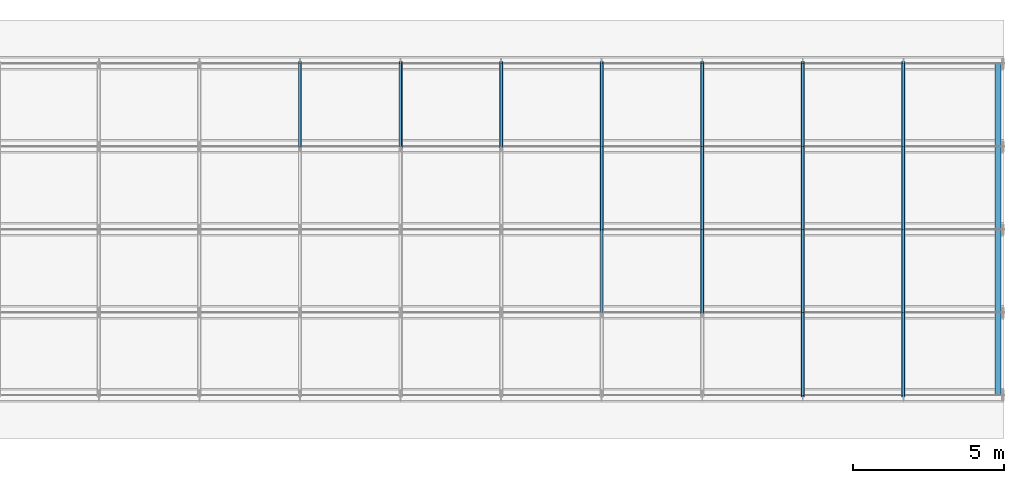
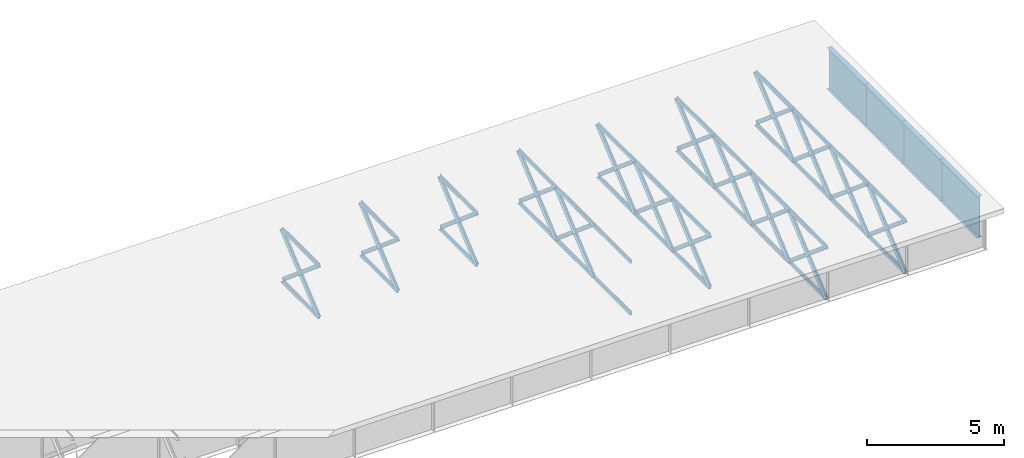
# One storey, part 2 of 19: 70 members.
"""IFC4 building model written with IfcOpenShell, lengths in metres."""

import ifcopenshell
import ifcopenshell.guid

model = None  # the IFC model being written
_history = None  # IfcOwnerHistory: only IFC2X3 demands one
_inside = {}  # id of a spatial element -> (the spatial element, [elements in it])
_under = {}  # id of a project, library or spatial element -> (it, [spatial elements below it])
_declared = {}  # id of a project -> (the project, [libraries it declares])
_typed = {}  # id of a type object -> (the type object, [elements of that type])
_made_of = {}  # id of a material, layer set ... -> (it, [elements and type objects made of it])


def new_model(schema):
    """Start an empty IFC model of exactly this schema.

    Asked for "IFC4X3", IfcOpenShell would pick the latest addendum, in which some entities
    have other attributes; the version numbers below select the first issue.
    IFC2X3 requires an IfcOwnerHistory on every rooted entity: one is made here for all.
    """
    global model, _history
    if schema == "IFC4X3":
        model = ifcopenshell.file(schema_version=(4, 3, 0, 0))
    else:
        model = ifcopenshell.file(schema=schema)
    _inside.clear()
    _under.clear()
    _declared.clear()
    _typed.clear()
    _made_of.clear()
    _history = None
    if model.schema == "IFC2X3":
        org = make("IfcOrganization", Name="unknown")
        user = make(
            "IfcPersonAndOrganization",
            ThePerson=make("IfcPerson", FamilyName="unknown"),
            TheOrganization=org,
        )
        app = make(
            "IfcApplication",
            ApplicationDeveloper=org,
            Version="unknown",
            ApplicationFullName="unknown",
            ApplicationIdentifier="unknown",
        )
        _history = make(
            "IfcOwnerHistory",
            OwningUser=user,
            OwningApplication=app,
            ChangeAction="ADDED",
            CreationDate=0,
        )
    return model


def make(cls, **values):
    """One entity of the class cls with the attributes given. An attribute that is None is left unset."""
    return model.create_entity(
        cls, **{name: value for name, value in values.items() if value is not None}
    )


def rooted(cls, **values):
    """An entity with a GlobalId (a new one), such as an element, a storey or a relation."""
    return make(cls, GlobalId=ifcopenshell.guid.new(), OwnerHistory=_history, **values)


def si_unit(unit_type, name, prefix=None):
    """IfcSIUnit, for example si_unit("LENGTHUNIT", "METRE", prefix="MILLI")."""
    return make("IfcSIUnit", UnitType=unit_type, Prefix=prefix, Name=name)


def assignment(units):
    """IfcUnitAssignment: the units of a project."""
    return None if units is None else make("IfcUnitAssignment", Units=units)


def point(xyz):
    """IfcCartesianPoint."""
    return None if xyz is None else make("IfcCartesianPoint", Coordinates=xyz)


def direction(xyz):
    """IfcDirection."""
    return None if xyz is None else make("IfcDirection", DirectionRatios=xyz)


def frame(location, z_axis=None, x_axis=None):
    """IfcAxis2Placement3D, a coordinate frame: its origin and axes. An axis left out is left unset."""
    return make(
        "IfcAxis2Placement3D",
        Location=point(location),
        Axis=direction(z_axis),
        RefDirection=direction(x_axis),
    )


def frame_2d(location, x_axis=None):
    """IfcAxis2Placement2D, a coordinate frame in the plane: its origin and x axis."""
    return make(
        "IfcAxis2Placement2D", Location=point(location), RefDirection=direction(x_axis)
    )


def origin():
    """The frame at (0, 0, 0) with its axes left unset."""
    return frame((0.0, 0.0, 0.0))


def origin_with_axes():
    """The frame at (0, 0, 0) with the z axis (0, 0, 1) and the x axis (1, 0, 0) written out."""
    return frame((0.0, 0.0, 0.0), z_axis=(0.0, 0.0, 1.0), x_axis=(1.0, 0.0, 0.0))


def origin_2d_with_axis():
    """The frame at (0, 0) in the plane with the x axis (1, 0) written out."""
    return frame_2d((0.0, 0.0), x_axis=(1.0, 0.0))


def place(relative_to, where):
    """IfcLocalPlacement: puts the frame where relative to a parent placement (None: the world)."""
    return make(
        "IfcLocalPlacement", PlacementRelTo=relative_to, RelativePlacement=where
    )


def context(
    kind, dimensions, precision=None, world=None, true_north=None, identifier=None
):
    """IfcGeometricRepresentationContext, for example the 3D "Model" context."""
    return make(
        "IfcGeometricRepresentationContext",
        ContextIdentifier=identifier,
        ContextType=kind,
        CoordinateSpaceDimension=dimensions,
        Precision=precision,
        WorldCoordinateSystem=world,
        TrueNorth=true_north,
    )


def subcontext(parent, identifier, kind, view, scale=None):
    """IfcGeometricRepresentationSubContext, for example "Body" below "Model"."""
    return make(
        "IfcGeometricRepresentationSubContext",
        ContextIdentifier=identifier,
        ContextType=kind,
        ParentContext=parent,
        TargetScale=scale,
        TargetView=view,
    )


def project(units=None, contexts=None):
    """IfcProject with its units and contexts."""
    return rooted(
        "IfcProject",
        Name="project",
        RepresentationContexts=contexts,
        UnitsInContext=assignment(units),
    )


def spatial(cls, under=None, at=None, **own):
    """A site, building, storey or space (cls), placed at a placement, below another one or the project."""
    s = rooted(cls, ObjectPlacement=at, **own)
    if under is not None:
        _under.setdefault(under.id(), (under, []))[1].append(s)
    return s


def profile(cls, at=None, kind="AREA", **sizes):
    """A parametric profile (cls). Its sizes go by their IFC names, for example OverallWidth=200.0."""
    return make(cls, ProfileType=kind, Position=at, **sizes)


def i_section(**sizes):
    """IfcIShapeProfileDef."""
    return profile("IfcIShapeProfileDef", **sizes)


def l_section(**sizes):
    """IfcLShapeProfileDef."""
    return profile("IfcLShapeProfileDef", **sizes)


def extrude(swept, where, along, depth):
    """IfcExtrudedAreaSolid: the profile swept, set in the frame where, extruded along a direction by depth."""
    return make(
        "IfcExtrudedAreaSolid",
        SweptArea=swept,
        Position=where,
        ExtrudedDirection=direction(along),
        Depth=depth,
    )


def shape(context_of_items, identifier, shape_type, items):
    """IfcShapeRepresentation: the items that make up one representation, for example the "Body"."""
    return make(
        "IfcShapeRepresentation",
        ContextOfItems=context_of_items,
        RepresentationIdentifier=identifier,
        RepresentationType=shape_type,
        Items=items,
    )


def made_of(thing, what):
    """Note that an element or type object is made of a material, layer set ...; save() writes the relation."""
    if what is not None:
        _made_of.setdefault(what.id(), (what, []))[1].append(thing)
    return thing


def element(
    cls,
    number,
    at=None,
    inside=None,
    cuts=None,
    type_object=None,
    material=None,
    context=None,
    identifier="Body",
    shape_type=None,
    held_by="IfcProductDefinitionShape",
    body=None,
    shapes=None,
    **own,
):
    """One element of the class cls, such as IfcWall. Its Tag is "e" and its number.

    at: its placement. inside: the storey or other place that contains it. cuts: it is an
    opening in that element (IfcRelVoidsElement). A single representation is given by context,
    identifier, shape_type and body (its items); several are given by shapes. held_by: the class
    of the entity that holds the representations. save() writes the other relations.
    """
    e = rooted(cls, Tag="e%d" % number, ObjectPlacement=at, **own)
    if body is not None:
        shapes = [shape(context, identifier, shape_type, body)]
    if shapes is not None:
        e.Representation = make(held_by, Representations=shapes)
    if inside is not None:
        _inside.setdefault(inside.id(), (inside, []))[1].append(e)
    if cuts is not None:
        rooted(
            "IfcRelVoidsElement", RelatingBuildingElement=cuts, RelatedOpeningElement=e
        )
    if type_object is not None:
        _typed.setdefault(type_object.id(), (type_object, []))[1].append(e)
    return made_of(e, material)


def aggregate(whole, parts):
    """IfcRelAggregates: a whole, such as a stair, and the parts it consists of."""
    return rooted("IfcRelAggregates", RelatingObject=whole, RelatedObjects=parts)


def save(model, path):
    """Write the relations noted so far, then the file.

    IfcRelAggregates (storeys below a building ...), IfcRelContainedInSpatialStructure (elements
    in a storey), IfcRelDefinesByType, IfcRelAssociatesMaterial and IfcRelDeclares: one each for
    every whole, place, type object, material and project.
    """
    for whole, parts in _under.values():
        aggregate(whole, parts)
    for where, things in _inside.values():
        rooted(
            "IfcRelContainedInSpatialStructure",
            RelatedElements=things,
            RelatingStructure=where,
        )
    for kind, things in _typed.values():
        rooted("IfcRelDefinesByType", RelatedObjects=things, RelatingType=kind)
    for what, things in _made_of.values():
        rooted("IfcRelAssociatesMaterial", RelatedObjects=things, RelatingMaterial=what)
    for by, libraries in _declared.values():
        rooted("IfcRelDeclares", RelatingContext=by, RelatedDefinitions=libraries)
    model.write(path)


model = new_model("IFC4")

# Units and contexts
model_context = context("Model", 3, precision=1e-05, world=origin())
body_context = subcontext(model_context, "Body", "Model", "MODEL_VIEW")
ifc_project = project(units=[si_unit("LENGTHUNIT", "METRE"), si_unit("AREAUNIT", "SQUARE_METRE"), si_unit("VOLUMEUNIT", "CUBIC_METRE"), si_unit("PLANEANGLEUNIT", "RADIAN")], contexts=[model_context])

# Site, building, storey
site_placement = place(None, origin_with_axes())
site = spatial("IfcSite", under=ifc_project, at=site_placement, Name="Default Site")
building_placement = place(site_placement, origin_with_axes())
building = spatial("IfcBuilding", under=site, at=building_placement, Name="Bridge Structure")
storey_placement = place(building_placement, origin_with_axes())
storey = spatial("IfcBuildingStorey", under=building, at=storey_placement, Name="Superstructure")

# Members
for number, where, z_axis, x_axis, name in (
    (1, (16.666666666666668, 2.75, 1.157), (0.0, 0.765156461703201, -0.6438443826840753), (-1.0, 0.0, 0.0), "Diagonal Brace"),
    (2, (16.666666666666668, 2.75, -1.157), (0.0, 0.765156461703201, 0.6438443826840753), (-1.0, 0.0, 0.0), "Diagonal Brace"),
):
    element("IfcMember", number, at=place(storey_placement, frame(where, z_axis=z_axis, x_axis=x_axis)), inside=storey, Name=name, context=body_context, shape_type="SweptSolid", body=[
        extrude(l_section(Depth=0.17300000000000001, Width=0.115, Thickness=0.008, at=origin_2d_with_axis()), origin_with_axes(), (0.0, 0.0, 1.0), 3.594036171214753),
    ])
for number, where, z_axis, x_axis, name in (
    (3, (16.666666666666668, 2.75, -1.157), (0.0, 1.0, 0.0), (-1.0, 0.0, 0.0), "Bottom Chord"),
    (4, (16.666666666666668, 2.75, 1.157), (0.0, 1.0, 0.0), (-1.0, 0.0, 0.0), "Top Chord"),
):
    element("IfcMember", number, at=place(storey_placement, frame(where, z_axis=z_axis, x_axis=x_axis)), inside=storey, Name=name, context=body_context, shape_type="SweptSolid", body=[
        extrude(l_section(Depth=0.15, Width=0.092, Thickness=0.008, at=origin_2d_with_axis()), origin_with_axes(), (0.0, 0.0, 1.0), 2.75),
    ])
for number, where, z_axis, x_axis, name in (
    (5, (20.0, 2.75, 1.157), (0.0, 0.765156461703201, -0.6438443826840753), (-1.0, 0.0, 0.0), "Diagonal Brace"),
    (6, (20.0, 2.75, -1.157), (0.0, 0.765156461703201, 0.6438443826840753), (-1.0, 0.0, 0.0), "Diagonal Brace"),
):
    element("IfcMember", number, at=place(storey_placement, frame(where, z_axis=z_axis, x_axis=x_axis)), inside=storey, Name=name, context=body_context, shape_type="SweptSolid", body=[
        extrude(l_section(Depth=0.17300000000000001, Width=0.115, Thickness=0.008, at=origin_2d_with_axis()), origin_with_axes(), (0.0, 0.0, 1.0), 3.594036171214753),
    ])
for number, where, z_axis, x_axis, name in (
    (7, (20.0, 2.75, -1.157), (0.0, 1.0, 0.0), (-1.0, 0.0, 0.0), "Bottom Chord"),
    (8, (20.0, 2.75, 1.157), (0.0, 1.0, 0.0), (-1.0, 0.0, 0.0), "Top Chord"),
):
    element("IfcMember", number, at=place(storey_placement, frame(where, z_axis=z_axis, x_axis=x_axis)), inside=storey, Name=name, context=body_context, shape_type="SweptSolid", body=[
        extrude(l_section(Depth=0.15, Width=0.092, Thickness=0.008, at=origin_2d_with_axis()), origin_with_axes(), (0.0, 0.0, 1.0), 2.75),
    ])
for number, where, z_axis, x_axis, name in (
    (9, (23.333333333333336, 2.75, 1.157), (0.0, 0.765156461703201, -0.6438443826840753), (-1.0, 0.0, 0.0), "Diagonal Brace"),
    (10, (23.333333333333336, 2.75, -1.157), (0.0, 0.765156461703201, 0.6438443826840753), (-1.0, 0.0, 0.0), "Diagonal Brace"),
):
    element("IfcMember", number, at=place(storey_placement, frame(where, z_axis=z_axis, x_axis=x_axis)), inside=storey, Name=name, context=body_context, shape_type="SweptSolid", body=[
        extrude(l_section(Depth=0.17300000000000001, Width=0.115, Thickness=0.008, at=origin_2d_with_axis()), origin_with_axes(), (0.0, 0.0, 1.0), 3.594036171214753),
    ])
for number, where, z_axis, x_axis, name in (
    (11, (23.333333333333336, 2.75, -1.157), (0.0, 1.0, 0.0), (-1.0, 0.0, 0.0), "Bottom Chord"),
    (12, (23.333333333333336, 2.75, 1.157), (0.0, 1.0, 0.0), (-1.0, 0.0, 0.0), "Top Chord"),
    (13, (26.666666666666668, -2.75, -1.157), (0.0, 1.0, 0.0), (-1.0, 0.0, 0.0), "Bottom Chord"),
    (14, (26.666666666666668, -2.75, 1.157), (0.0, 1.0, 0.0), (-1.0, 0.0, 0.0), "Top Chord"),
):
    element("IfcMember", number, at=place(storey_placement, frame(where, z_axis=z_axis, x_axis=x_axis)), inside=storey, Name=name, context=body_context, shape_type="SweptSolid", body=[
        extrude(l_section(Depth=0.15, Width=0.092, Thickness=0.008, at=origin_2d_with_axis()), origin_with_axes(), (0.0, 0.0, 1.0), 2.75),
    ])
for number, where, z_axis, x_axis, name in (
    (15, (26.666666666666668, 0.0, 1.157), (0.0, 0.765156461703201, -0.6438443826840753), (-1.0, 0.0, 0.0), "Diagonal Brace"),
    (16, (26.666666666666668, 0.0, -1.157), (0.0, 0.765156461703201, 0.6438443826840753), (-1.0, 0.0, 0.0), "Diagonal Brace"),
):
    element("IfcMember", number, at=place(storey_placement, frame(where, z_axis=z_axis, x_axis=x_axis)), inside=storey, Name=name, context=body_context, shape_type="SweptSolid", body=[
        extrude(l_section(Depth=0.17300000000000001, Width=0.115, Thickness=0.008, at=origin_2d_with_axis()), origin_with_axes(), (0.0, 0.0, 1.0), 3.594036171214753),
    ])
for number, where, z_axis, x_axis, name in (
    (17, (26.666666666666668, 0.0, -1.157), (0.0, 1.0, 0.0), (-1.0, 0.0, 0.0), "Bottom Chord"),
    (18, (26.666666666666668, 0.0, 1.157), (0.0, 1.0, 0.0), (-1.0, 0.0, 0.0), "Top Chord"),
):
    element("IfcMember", number, at=place(storey_placement, frame(where, z_axis=z_axis, x_axis=x_axis)), inside=storey, Name=name, context=body_context, shape_type="SweptSolid", body=[
        extrude(l_section(Depth=0.15, Width=0.092, Thickness=0.008, at=origin_2d_with_axis()), origin_with_axes(), (0.0, 0.0, 1.0), 2.75),
    ])
for number, where, z_axis, x_axis, name in (
    (19, (26.666666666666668, 2.75, 1.157), (0.0, 0.765156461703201, -0.6438443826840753), (-1.0, 0.0, 0.0), "Diagonal Brace"),
    (20, (26.666666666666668, 2.75, -1.157), (0.0, 0.765156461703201, 0.6438443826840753), (-1.0, 0.0, 0.0), "Diagonal Brace"),
):
    element("IfcMember", number, at=place(storey_placement, frame(where, z_axis=z_axis, x_axis=x_axis)), inside=storey, Name=name, context=body_context, shape_type="SweptSolid", body=[
        extrude(l_section(Depth=0.17300000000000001, Width=0.115, Thickness=0.008, at=origin_2d_with_axis()), origin_with_axes(), (0.0, 0.0, 1.0), 3.594036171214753),
    ])
for number, where, z_axis, x_axis, name in (
    (21, (26.666666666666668, 2.75, -1.157), (0.0, 1.0, 0.0), (-1.0, 0.0, 0.0), "Bottom Chord"),
    (22, (26.666666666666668, 2.75, 1.157), (0.0, 1.0, 0.0), (-1.0, 0.0, 0.0), "Top Chord"),
):
    element("IfcMember", number, at=place(storey_placement, frame(where, z_axis=z_axis, x_axis=x_axis)), inside=storey, Name=name, context=body_context, shape_type="SweptSolid", body=[
        extrude(l_section(Depth=0.15, Width=0.092, Thickness=0.008, at=origin_2d_with_axis()), origin_with_axes(), (0.0, 0.0, 1.0), 2.75),
    ])
for number, where, z_axis, x_axis, name in (
    (23, (30.0, -2.75, 1.157), (0.0, 0.765156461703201, -0.6438443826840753), (-1.0, 0.0, 0.0), "Diagonal Brace"),
    (24, (30.0, -2.75, -1.157), (0.0, 0.765156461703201, 0.6438443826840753), (-1.0, 0.0, 0.0), "Diagonal Brace"),
):
    element("IfcMember", number, at=place(storey_placement, frame(where, z_axis=z_axis, x_axis=x_axis)), inside=storey, Name=name, context=body_context, shape_type="SweptSolid", body=[
        extrude(l_section(Depth=0.17300000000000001, Width=0.115, Thickness=0.008, at=origin_2d_with_axis()), origin_with_axes(), (0.0, 0.0, 1.0), 3.594036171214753),
    ])
for number, where, z_axis, x_axis, name in (
    (25, (30.0, -2.75, -1.157), (0.0, 1.0, 0.0), (-1.0, 0.0, 0.0), "Bottom Chord"),
    (26, (30.0, -2.75, 1.157), (0.0, 1.0, 0.0), (-1.0, 0.0, 0.0), "Top Chord"),
):
    element("IfcMember", number, at=place(storey_placement, frame(where, z_axis=z_axis, x_axis=x_axis)), inside=storey, Name=name, context=body_context, shape_type="SweptSolid", body=[
        extrude(l_section(Depth=0.15, Width=0.092, Thickness=0.008, at=origin_2d_with_axis()), origin_with_axes(), (0.0, 0.0, 1.0), 2.75),
    ])
for number, where, z_axis, x_axis, name in (
    (27, (30.0, 0.0, 1.157), (0.0, 0.765156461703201, -0.6438443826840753), (-1.0, 0.0, 0.0), "Diagonal Brace"),
    (28, (30.0, 0.0, -1.157), (0.0, 0.765156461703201, 0.6438443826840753), (-1.0, 0.0, 0.0), "Diagonal Brace"),
):
    element("IfcMember", number, at=place(storey_placement, frame(where, z_axis=z_axis, x_axis=x_axis)), inside=storey, Name=name, context=body_context, shape_type="SweptSolid", body=[
        extrude(l_section(Depth=0.17300000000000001, Width=0.115, Thickness=0.008, at=origin_2d_with_axis()), origin_with_axes(), (0.0, 0.0, 1.0), 3.594036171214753),
    ])
for number, where, z_axis, x_axis, name in (
    (29, (30.0, 0.0, -1.157), (0.0, 1.0, 0.0), (-1.0, 0.0, 0.0), "Bottom Chord"),
    (30, (30.0, 0.0, 1.157), (0.0, 1.0, 0.0), (-1.0, 0.0, 0.0), "Top Chord"),
):
    element("IfcMember", number, at=place(storey_placement, frame(where, z_axis=z_axis, x_axis=x_axis)), inside=storey, Name=name, context=body_context, shape_type="SweptSolid", body=[
        extrude(l_section(Depth=0.15, Width=0.092, Thickness=0.008, at=origin_2d_with_axis()), origin_with_axes(), (0.0, 0.0, 1.0), 2.75),
    ])
for number, where, z_axis, x_axis, name in (
    (31, (30.0, 2.75, 1.157), (0.0, 0.765156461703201, -0.6438443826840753), (-1.0, 0.0, 0.0), "Diagonal Brace"),
    (32, (30.0, 2.75, -1.157), (0.0, 0.765156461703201, 0.6438443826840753), (-1.0, 0.0, 0.0), "Diagonal Brace"),
):
    element("IfcMember", number, at=place(storey_placement, frame(where, z_axis=z_axis, x_axis=x_axis)), inside=storey, Name=name, context=body_context, shape_type="SweptSolid", body=[
        extrude(l_section(Depth=0.17300000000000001, Width=0.115, Thickness=0.008, at=origin_2d_with_axis()), origin_with_axes(), (0.0, 0.0, 1.0), 3.594036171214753),
    ])
for number, where, z_axis, x_axis, name in (
    (33, (30.0, 2.75, -1.157), (0.0, 1.0, 0.0), (-1.0, 0.0, 0.0), "Bottom Chord"),
    (34, (30.0, 2.75, 1.157), (0.0, 1.0, 0.0), (-1.0, 0.0, 0.0), "Top Chord"),
):
    element("IfcMember", number, at=place(storey_placement, frame(where, z_axis=z_axis, x_axis=x_axis)), inside=storey, Name=name, context=body_context, shape_type="SweptSolid", body=[
        extrude(l_section(Depth=0.15, Width=0.092, Thickness=0.008, at=origin_2d_with_axis()), origin_with_axes(), (0.0, 0.0, 1.0), 2.75),
    ])
for number, where, z_axis, x_axis, name in (
    (35, (33.333333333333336, -5.5, 1.157), (0.0, 0.765156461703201, -0.6438443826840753), (-1.0, 0.0, 0.0), "Diagonal Brace"),
    (36, (33.333333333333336, -5.5, -1.157), (0.0, 0.765156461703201, 0.6438443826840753), (-1.0, 0.0, 0.0), "Diagonal Brace"),
):
    element("IfcMember", number, at=place(storey_placement, frame(where, z_axis=z_axis, x_axis=x_axis)), inside=storey, Name=name, context=body_context, shape_type="SweptSolid", body=[
        extrude(l_section(Depth=0.17300000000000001, Width=0.115, Thickness=0.008, at=origin_2d_with_axis()), origin_with_axes(), (0.0, 0.0, 1.0), 3.594036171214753),
    ])
for number, where, z_axis, x_axis, name in (
    (37, (33.333333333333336, -5.5, -1.157), (0.0, 1.0, 0.0), (-1.0, 0.0, 0.0), "Bottom Chord"),
    (38, (33.333333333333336, -5.5, 1.157), (0.0, 1.0, 0.0), (-1.0, 0.0, 0.0), "Top Chord"),
):
    element("IfcMember", number, at=place(storey_placement, frame(where, z_axis=z_axis, x_axis=x_axis)), inside=storey, Name=name, context=body_context, shape_type="SweptSolid", body=[
        extrude(l_section(Depth=0.15, Width=0.092, Thickness=0.008, at=origin_2d_with_axis()), origin_with_axes(), (0.0, 0.0, 1.0), 2.75),
    ])
for number, where, z_axis, x_axis, name in (
    (39, (33.333333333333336, -2.75, 1.157), (0.0, 0.765156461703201, -0.6438443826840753), (-1.0, 0.0, 0.0), "Diagonal Brace"),
    (40, (33.333333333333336, -2.75, -1.157), (0.0, 0.765156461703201, 0.6438443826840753), (-1.0, 0.0, 0.0), "Diagonal Brace"),
):
    element("IfcMember", number, at=place(storey_placement, frame(where, z_axis=z_axis, x_axis=x_axis)), inside=storey, Name=name, context=body_context, shape_type="SweptSolid", body=[
        extrude(l_section(Depth=0.17300000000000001, Width=0.115, Thickness=0.008, at=origin_2d_with_axis()), origin_with_axes(), (0.0, 0.0, 1.0), 3.594036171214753),
    ])
for number, where, z_axis, x_axis, name in (
    (41, (33.333333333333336, -2.75, -1.157), (0.0, 1.0, 0.0), (-1.0, 0.0, 0.0), "Bottom Chord"),
    (42, (33.333333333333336, -2.75, 1.157), (0.0, 1.0, 0.0), (-1.0, 0.0, 0.0), "Top Chord"),
):
    element("IfcMember", number, at=place(storey_placement, frame(where, z_axis=z_axis, x_axis=x_axis)), inside=storey, Name=name, context=body_context, shape_type="SweptSolid", body=[
        extrude(l_section(Depth=0.15, Width=0.092, Thickness=0.008, at=origin_2d_with_axis()), origin_with_axes(), (0.0, 0.0, 1.0), 2.75),
    ])
for number, where, z_axis, x_axis, name in (
    (43, (33.333333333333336, 0.0, 1.157), (0.0, 0.765156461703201, -0.6438443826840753), (-1.0, 0.0, 0.0), "Diagonal Brace"),
    (44, (33.333333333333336, 0.0, -1.157), (0.0, 0.765156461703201, 0.6438443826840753), (-1.0, 0.0, 0.0), "Diagonal Brace"),
):
    element("IfcMember", number, at=place(storey_placement, frame(where, z_axis=z_axis, x_axis=x_axis)), inside=storey, Name=name, context=body_context, shape_type="SweptSolid", body=[
        extrude(l_section(Depth=0.17300000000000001, Width=0.115, Thickness=0.008, at=origin_2d_with_axis()), origin_with_axes(), (0.0, 0.0, 1.0), 3.594036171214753),
    ])
for number, where, z_axis, x_axis, name in (
    (45, (33.333333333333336, 0.0, -1.157), (0.0, 1.0, 0.0), (-1.0, 0.0, 0.0), "Bottom Chord"),
    (46, (33.333333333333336, 0.0, 1.157), (0.0, 1.0, 0.0), (-1.0, 0.0, 0.0), "Top Chord"),
):
    element("IfcMember", number, at=place(storey_placement, frame(where, z_axis=z_axis, x_axis=x_axis)), inside=storey, Name=name, context=body_context, shape_type="SweptSolid", body=[
        extrude(l_section(Depth=0.15, Width=0.092, Thickness=0.008, at=origin_2d_with_axis()), origin_with_axes(), (0.0, 0.0, 1.0), 2.75),
    ])
for number, where, z_axis, x_axis, name in (
    (47, (33.333333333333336, 2.75, 1.157), (0.0, 0.765156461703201, -0.6438443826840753), (-1.0, 0.0, 0.0), "Diagonal Brace"),
    (48, (33.333333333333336, 2.75, -1.157), (0.0, 0.765156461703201, 0.6438443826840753), (-1.0, 0.0, 0.0), "Diagonal Brace"),
):
    element("IfcMember", number, at=place(storey_placement, frame(where, z_axis=z_axis, x_axis=x_axis)), inside=storey, Name=name, context=body_context, shape_type="SweptSolid", body=[
        extrude(l_section(Depth=0.17300000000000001, Width=0.115, Thickness=0.008, at=origin_2d_with_axis()), origin_with_axes(), (0.0, 0.0, 1.0), 3.594036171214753),
    ])
for number, where, z_axis, x_axis, name in (
    (49, (33.333333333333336, 2.75, -1.157), (0.0, 1.0, 0.0), (-1.0, 0.0, 0.0), "Bottom Chord"),
    (50, (33.333333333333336, 2.75, 1.157), (0.0, 1.0, 0.0), (-1.0, 0.0, 0.0), "Top Chord"),
):
    element("IfcMember", number, at=place(storey_placement, frame(where, z_axis=z_axis, x_axis=x_axis)), inside=storey, Name=name, context=body_context, shape_type="SweptSolid", body=[
        extrude(l_section(Depth=0.15, Width=0.092, Thickness=0.008, at=origin_2d_with_axis()), origin_with_axes(), (0.0, 0.0, 1.0), 2.75),
    ])
for number, where, z_axis, x_axis, name in (
    (51, (36.66666666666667, -5.5, 1.157), (0.0, 0.765156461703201, -0.6438443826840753), (-1.0, 0.0, 0.0), "Diagonal Brace"),
    (52, (36.66666666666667, -5.5, -1.157), (0.0, 0.765156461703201, 0.6438443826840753), (-1.0, 0.0, 0.0), "Diagonal Brace"),
):
    element("IfcMember", number, at=place(storey_placement, frame(where, z_axis=z_axis, x_axis=x_axis)), inside=storey, Name=name, context=body_context, shape_type="SweptSolid", body=[
        extrude(l_section(Depth=0.17300000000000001, Width=0.115, Thickness=0.008, at=origin_2d_with_axis()), origin_with_axes(), (0.0, 0.0, 1.0), 3.594036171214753),
    ])
for number, where, z_axis, x_axis, name in (
    (53, (36.66666666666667, -5.5, -1.157), (0.0, 1.0, 0.0), (-1.0, 0.0, 0.0), "Bottom Chord"),
    (54, (36.66666666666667, -5.5, 1.157), (0.0, 1.0, 0.0), (-1.0, 0.0, 0.0), "Top Chord"),
):
    element("IfcMember", number, at=place(storey_placement, frame(where, z_axis=z_axis, x_axis=x_axis)), inside=storey, Name=name, context=body_context, shape_type="SweptSolid", body=[
        extrude(l_section(Depth=0.15, Width=0.092, Thickness=0.008, at=origin_2d_with_axis()), origin_with_axes(), (0.0, 0.0, 1.0), 2.75),
    ])
for number, where, z_axis, x_axis, name in (
    (55, (36.66666666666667, -2.75, 1.157), (0.0, 0.765156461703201, -0.6438443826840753), (-1.0, 0.0, 0.0), "Diagonal Brace"),
    (56, (36.66666666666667, -2.75, -1.157), (0.0, 0.765156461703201, 0.6438443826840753), (-1.0, 0.0, 0.0), "Diagonal Brace"),
):
    element("IfcMember", number, at=place(storey_placement, frame(where, z_axis=z_axis, x_axis=x_axis)), inside=storey, Name=name, context=body_context, shape_type="SweptSolid", body=[
        extrude(l_section(Depth=0.17300000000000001, Width=0.115, Thickness=0.008, at=origin_2d_with_axis()), origin_with_axes(), (0.0, 0.0, 1.0), 3.594036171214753),
    ])
for number, where, z_axis, x_axis, name in (
    (57, (36.66666666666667, -2.75, -1.157), (0.0, 1.0, 0.0), (-1.0, 0.0, 0.0), "Bottom Chord"),
    (58, (36.66666666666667, -2.75, 1.157), (0.0, 1.0, 0.0), (-1.0, 0.0, 0.0), "Top Chord"),
):
    element("IfcMember", number, at=place(storey_placement, frame(where, z_axis=z_axis, x_axis=x_axis)), inside=storey, Name=name, context=body_context, shape_type="SweptSolid", body=[
        extrude(l_section(Depth=0.15, Width=0.092, Thickness=0.008, at=origin_2d_with_axis()), origin_with_axes(), (0.0, 0.0, 1.0), 2.75),
    ])
for number, where, z_axis, x_axis, name in (
    (59, (36.66666666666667, 0.0, 1.157), (0.0, 0.765156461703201, -0.6438443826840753), (-1.0, 0.0, 0.0), "Diagonal Brace"),
    (60, (36.66666666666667, 0.0, -1.157), (0.0, 0.765156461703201, 0.6438443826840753), (-1.0, 0.0, 0.0), "Diagonal Brace"),
):
    element("IfcMember", number, at=place(storey_placement, frame(where, z_axis=z_axis, x_axis=x_axis)), inside=storey, Name=name, context=body_context, shape_type="SweptSolid", body=[
        extrude(l_section(Depth=0.17300000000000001, Width=0.115, Thickness=0.008, at=origin_2d_with_axis()), origin_with_axes(), (0.0, 0.0, 1.0), 3.594036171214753),
    ])
for number, where, z_axis, x_axis, name in (
    (61, (36.66666666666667, 0.0, -1.157), (0.0, 1.0, 0.0), (-1.0, 0.0, 0.0), "Bottom Chord"),
    (62, (36.66666666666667, 0.0, 1.157), (0.0, 1.0, 0.0), (-1.0, 0.0, 0.0), "Top Chord"),
):
    element("IfcMember", number, at=place(storey_placement, frame(where, z_axis=z_axis, x_axis=x_axis)), inside=storey, Name=name, context=body_context, shape_type="SweptSolid", body=[
        extrude(l_section(Depth=0.15, Width=0.092, Thickness=0.008, at=origin_2d_with_axis()), origin_with_axes(), (0.0, 0.0, 1.0), 2.75),
    ])
for number, where, z_axis, x_axis, name in (
    (63, (36.66666666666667, 2.75, 1.157), (0.0, 0.765156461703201, -0.6438443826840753), (-1.0, 0.0, 0.0), "Diagonal Brace"),
    (64, (36.66666666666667, 2.75, -1.157), (0.0, 0.765156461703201, 0.6438443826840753), (-1.0, 0.0, 0.0), "Diagonal Brace"),
):
    element("IfcMember", number, at=place(storey_placement, frame(where, z_axis=z_axis, x_axis=x_axis)), inside=storey, Name=name, context=body_context, shape_type="SweptSolid", body=[
        extrude(l_section(Depth=0.17300000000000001, Width=0.115, Thickness=0.008, at=origin_2d_with_axis()), origin_with_axes(), (0.0, 0.0, 1.0), 3.594036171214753),
    ])
for number, where, z_axis, x_axis, name in (
    (65, (36.66666666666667, 2.75, -1.157), (0.0, 1.0, 0.0), (-1.0, 0.0, 0.0), "Bottom Chord"),
    (66, (36.66666666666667, 2.75, 1.157), (0.0, 1.0, 0.0), (-1.0, 0.0, 0.0), "Top Chord"),
):
    element("IfcMember", number, at=place(storey_placement, frame(where, z_axis=z_axis, x_axis=x_axis)), inside=storey, Name=name, context=body_context, shape_type="SweptSolid", body=[
        extrude(l_section(Depth=0.15, Width=0.092, Thickness=0.008, at=origin_2d_with_axis()), origin_with_axes(), (0.0, 0.0, 1.0), 2.75),
    ])
for number, where, z_axis, x_axis, name in (
    (67, (39.800000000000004, -5.5, 0.2315), (0.0, 1.0, 0.0), (-1.0, 0.0, 0.0), "End Diaphragm"),
    (68, (39.800000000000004, -2.75, 0.2315), (0.0, 1.0, 0.0), (-1.0, 0.0, 0.0), "End Diaphragm"),
    (69, (39.800000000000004, 0.0, 0.2315), (0.0, 1.0, 0.0), (-1.0, 0.0, 0.0), "End Diaphragm"),
    (70, (39.800000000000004, 2.75, 0.2315), (0.0, 1.0, 0.0), (-1.0, 0.0, 0.0), "End Diaphragm"),
):
    element("IfcMember", number, at=place(storey_placement, frame(where, z_axis=z_axis, x_axis=x_axis)), inside=storey, Name=name, context=body_context, shape_type="SweptSolid", body=[
        extrude(i_section(OverallWidth=0.21, OverallDepth=1.851, WebThickness=0.016, FlangeThickness=0.012, at=origin_2d_with_axis()), origin_with_axes(), (0.0, 0.0, 1.0), 2.75),
    ])

save(model, "model.ifc")
